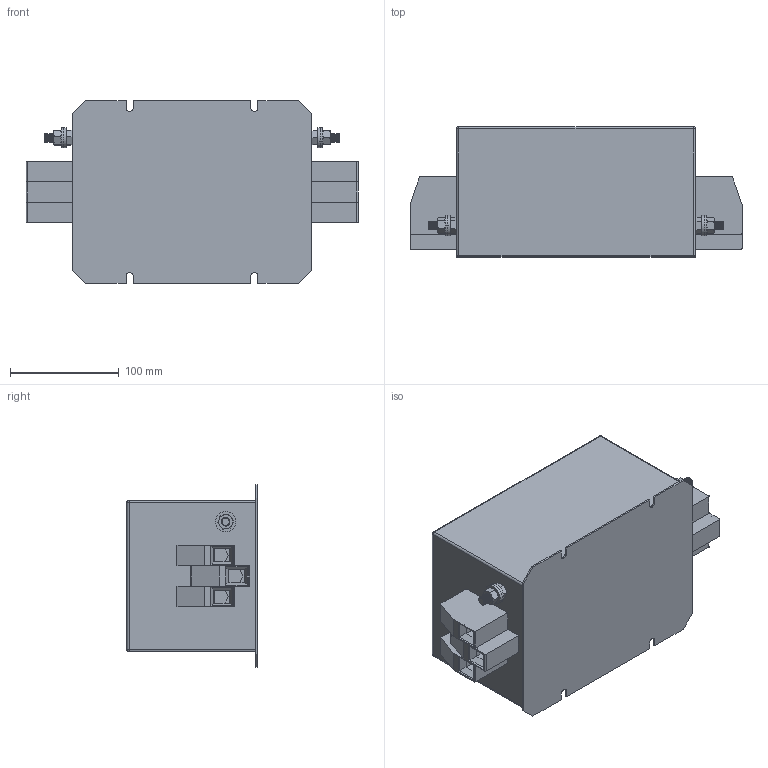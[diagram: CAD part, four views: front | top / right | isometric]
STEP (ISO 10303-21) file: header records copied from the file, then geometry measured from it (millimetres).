
FILE_DESCRIPTION (( 'STEP AP203' ), '1' );
FILE_NAME ('NF-DAR-125-3.STEP', '2018-09-24T14:32:24', ( '' ), ( '' ), 'SwSTEP 2.0', 'SolidWorks 2017', '' );
FILE_SCHEMA (( 'CONFIG_CONTROL_DESIGN' ));
Length unit declared in the file: millimetre
Products named in the file (7): M8x20 Earth post; hex screw_am_B18.6.7M - M8 x 1.25 x 20 Plain HHMS --20S; hex nut style 1_am_B18.2.4.1M - Hex nut, Style 1,  M8 x 1.25 --D-N; FTTK150 case; NF-DAR-125-3; HDFK-50; flat washer narrow_am_B18.22M - Plain washer, 8 mm, narrow
Assembly tree (13 placements, depth 3):
  NF-DAR-125-3
    FTTK150 case
    HDFK-50  x6
    M8x20 Earth post  x2
      hex screw_am_B18.6.7M - M8 x 1.25 x 20 Plain HHMS --20S
      flat washer narrow_am_B18.22M - Plain washer, 8 mm, narrow
      hex nut style 1_am_B18.2.4.1M - Hex nut, Style 1,  M8 x 1.25 --D-N
Bounding box: 306.01 x 120 x 168 mm (x, y, z)
Volume: 3905458.5 mm3; surface area: 311793.6 mm2
Topology: 16 solids, 16 shells, 712 faces, 1726 edges, 1092 vertices
Faces by surface type: plane 364, cylinder 176, cone 168, sphere 4
Entity records: 8723 total; most frequent: CARTESIAN_POINT 1510, DIRECTION 1406, ORIENTED_EDGE 1268, EDGE_CURVE 634, AXIS2_PLACEMENT_3D 534, VERTEX_POINT 398, LINE 338, VECTOR 338
